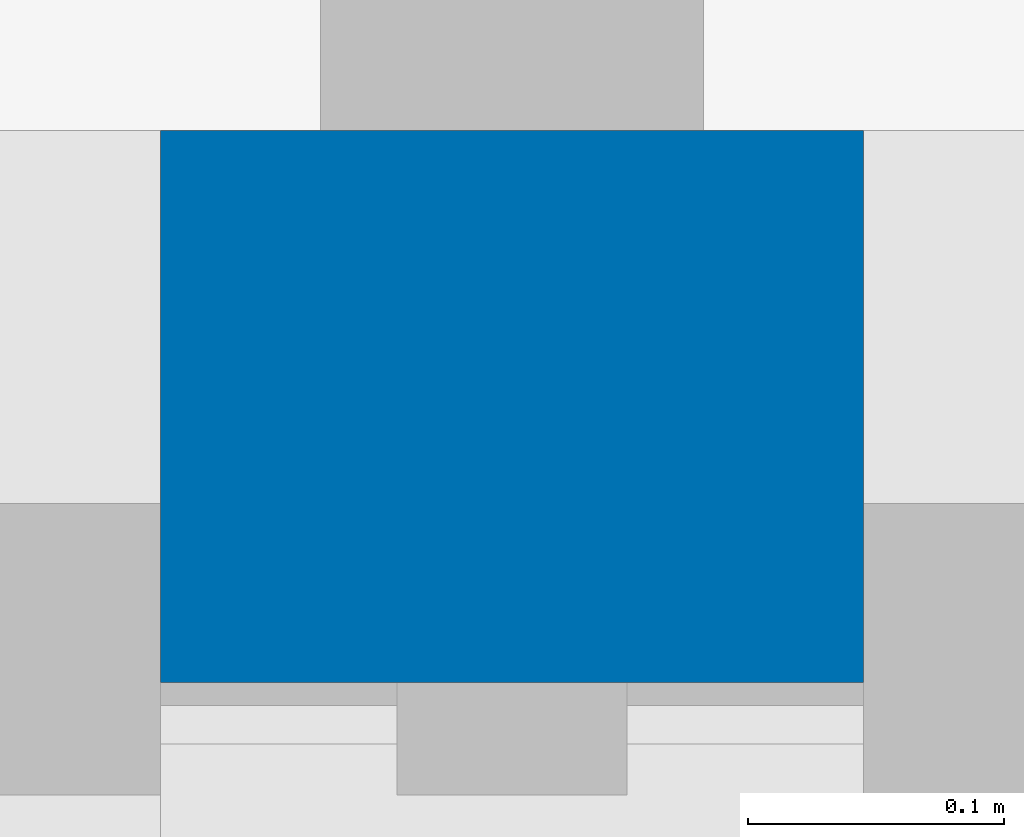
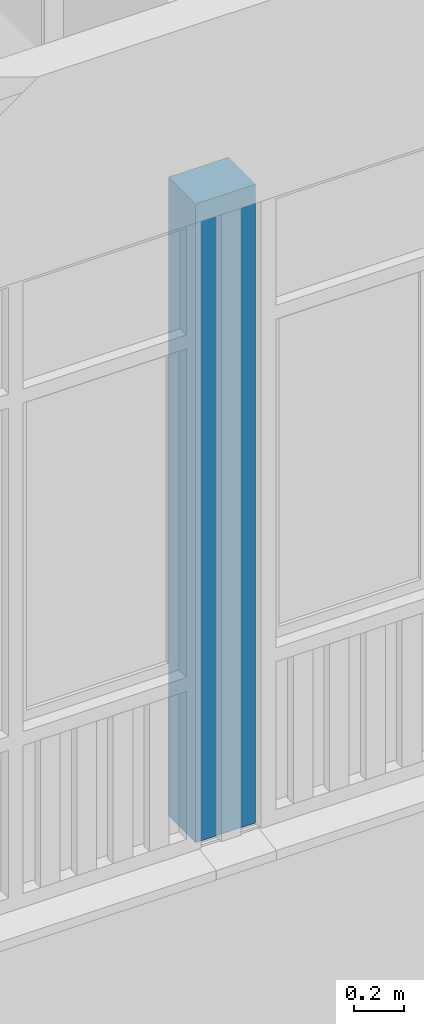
# One storey, part 91 of 135: 1 wall.
"""IFC2X3 building model written with IfcOpenShell, lengths in millimetres."""

from ifc_helpers import new_model, entity, si_unit, converted_unit, derived_unit, money_unit, direction, frame, origin_with_axes, place, context, subcontext, project, spatial, faceted_brep, material, type_object, element, save


model = new_model("IFC2X3")

# Units and contexts
model_context = context("Model", 3, precision=0.01, world=origin_with_axes(), true_north=direction((0.0, 1.0)))
body_context = subcontext(model_context, "Body", "Model", "MODEL_VIEW")
ifc_project = project(units=[si_unit("LENGTHUNIT", "METRE", prefix="MILLI"), si_unit("AREAUNIT", "SQUARE_METRE"), si_unit("VOLUMEUNIT", "CUBIC_METRE"), converted_unit("PLANEANGLEUNIT", "DEGREE", entity("IfcPlaneAngleMeasure", 0.0174532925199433), si_unit("PLANEANGLEUNIT", "RADIAN"), dimensions=[0, 0, 0, 0, 0, 0, 0]), money_unit("EUR"), converted_unit("TIMEUNIT", "Year", entity("IfcTimeMeasure", 31557600.0), si_unit("TIMEUNIT", "SECOND"), dimensions=[0, 0, 1, 0, 0, 0, 0]), si_unit("MASSUNIT", "GRAM", prefix="KILO"), si_unit("THERMODYNAMICTEMPERATUREUNIT", "DEGREE_CELSIUS"), si_unit("LUMINOUSINTENSITYUNIT", "LUMEN"), si_unit("ENERGYUNIT", "JOULE", prefix="MEGA"), derived_unit("THERMALCONDUCTANCEUNIT", [(si_unit("POWERUNIT", "WATT"), 1), (si_unit("LENGTHUNIT", "METRE"), -1), (si_unit("THERMODYNAMICTEMPERATUREUNIT", "KELVIN"), -1)]), derived_unit("SPECIFICHEATCAPACITYUNIT", [(si_unit("ENERGYUNIT", "JOULE"), 1), (si_unit("MASSUNIT", "GRAM", prefix="KILO"), -1), (si_unit("THERMODYNAMICTEMPERATUREUNIT", "KELVIN"), -1)]), derived_unit("MASSDENSITYUNIT", [(si_unit("MASSUNIT", "GRAM", prefix="KILO"), 1), (si_unit("VOLUMEUNIT", "CUBIC_METRE"), -1)])], contexts=[model_context])

# Site, building, storey
site_placement = place(None, origin_with_axes())
site = spatial("IfcSite", under=ifc_project, at=site_placement, Name="Site", CompositionType="ELEMENT")
building_placement = place(site_placement, origin_with_axes())
building = spatial("IfcBuilding", under=site, at=building_placement, Name="Naam gebouw", CompositionType="ELEMENT")
storey_placement = place(building_placement, origin_with_axes())
storey = spatial("IfcBuildingStorey", under=building, at=storey_placement, Name="Begane grond N", CompositionType="ELEMENT", Elevation=0.0)

# Wall
ifc_material = material(Name="ALG - GEVEL")
wall_type = type_object("IfcWallType", Name="ALG - GEVEL 260", PredefinedType="NOTDEFINED")
wall_placement = place(storey_placement, frame((43337.49999999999, 10730.91242510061, 0.0), z_axis=(0.0, 0.0, 1.0), x_axis=(-1.0, 0.0, 0.0)))
element("IfcWall", 1, at=wall_placement, inside=storey, type_object=wall_type, material=ifc_material, Name="_Wand-x", context=body_context, shape_type="Brep", body=[
    faceted_brep([(274.9999999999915, -44.00000000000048, 3090.000000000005), (0.0, -44.00000000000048, 3090.000000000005), (0.0, -259.9999999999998, 3090.0), (275.0000000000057, -259.9999999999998, 3090.0), (274.9999999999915, -44.00000000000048, 0.0), (0.0, -44.00000000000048, 0.0), (0.0, -259.9999999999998, 0.0), (275.0000000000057, -259.9999999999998, 0.0)], [[[0, 1, 2, 3]], [[0, 4, 5, 1]], [[2, 1, 5, 6]], [[2, 6, 7, 3]], [[7, 4, 0, 3]], [[5, 4, 7, 6]]]),
])

save(model, "model.ifc")
